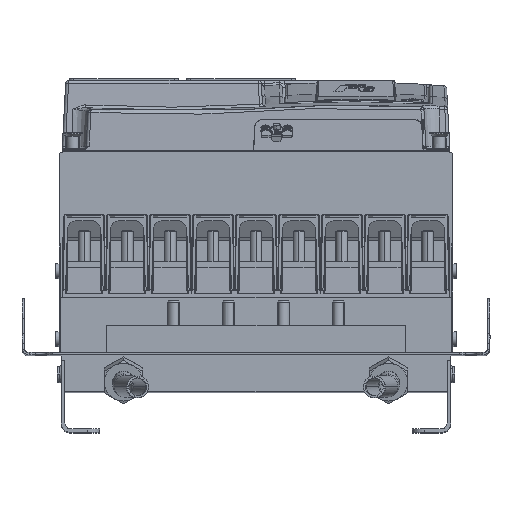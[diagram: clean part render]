
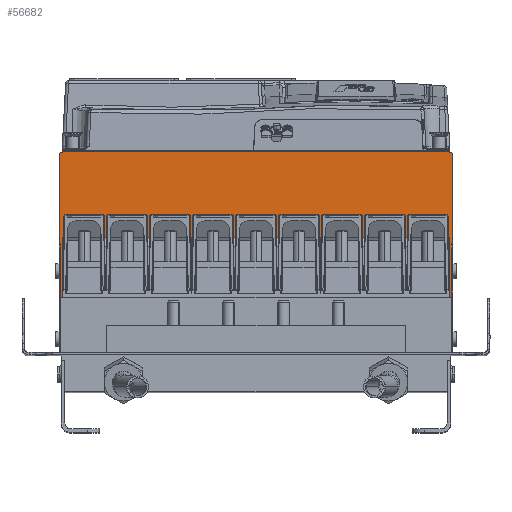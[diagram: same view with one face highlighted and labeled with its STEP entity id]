
A CAD part, top view. The second image highlights one B-rep face of the part: STEP entity #56682.
In plain terms, the highlighted planar face has unit normal (0, 0, 1).
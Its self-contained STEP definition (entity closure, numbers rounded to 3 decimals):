
#37 = VERTEX_POINT ( 'NONE', #41005 ) ;
#3820 = DIRECTION ( 'NONE',  ( 0., 1., 0. ) ) ;
#10092 = CARTESIAN_POINT ( 'NONE',  ( 0., 0., 453. ) ) ;
#10123 = DIRECTION ( 'NONE',  ( 1., 0., 0. ) ) ;
#10351 = ORIENTED_EDGE ( 'NONE', *, *, #94804, .F. ) ;
#10664 = LINE ( 'NONE', #67856, #22197 ) ;
#12765 = EDGE_CURVE ( 'NONE', #101513, #48969, #42381, .T. ) ;
#13591 = ORIENTED_EDGE ( 'NONE', *, *, #12765, .T. ) ;
#14924 = VECTOR ( 'NONE', #102651, 1000. ) ;
#16116 = CARTESIAN_POINT ( 'NONE',  ( 0., 0., 453. ) ) ;
#18628 = DIRECTION ( 'NONE',  ( 1., 0., 0. ) ) ;
#20397 = EDGE_CURVE ( 'NONE', #43883, #37, #91831, .T. ) ;
#21061 = DIRECTION ( 'NONE',  ( 0., 0., -1. ) ) ;
#21235 = AXIS2_PLACEMENT_3D ( 'NONE', #93736, #21061, #103290 ) ;
#22197 = VECTOR ( 'NONE', #10123, 1000. ) ;
#23571 = VECTOR ( 'NONE', #88842, 1000. ) ;
#27372 = LINE ( 'NONE', #67984, #102886 ) ;
#28244 = EDGE_CURVE ( 'NONE', #45555, #90767, #36100, .T. ) ;
#28368 = EDGE_CURVE ( 'NONE', #88324, #65263, #67344, .T. ) ;
#29751 = CARTESIAN_POINT ( 'NONE',  ( 165., -3.5, 453. ) ) ;
#36100 = LINE ( 'NONE', #68681, #23571 ) ;
#36119 = CARTESIAN_POINT ( 'NONE',  ( -165., -3.5, 453. ) ) ;
#37268 = VECTOR ( 'NONE', #43310, 1000. ) ;
#37747 = VERTEX_POINT ( 'NONE', #44061 ) ;
#39594 = EDGE_CURVE ( 'NONE', #48969, #47862, #10664, .T. ) ;
#40757 = DIRECTION ( 'NONE',  ( 0., 0., -1. ) ) ;
#41005 = CARTESIAN_POINT ( 'NONE',  ( 161.5, 0., 453. ) ) ;
#41731 = AXIS2_PLACEMENT_3D ( 'NONE', #69645, #70167, #102676 ) ;
#42381 = LINE ( 'NONE', #51962, #77901 ) ;
#42651 = EDGE_CURVE ( 'NONE', #101513, #43883, #70772, .T. ) ;
#43310 = DIRECTION ( 'NONE',  ( 0., 1., 0. ) ) ;
#43469 = CIRCLE ( 'NONE', #41731, 3.5 ) ;
#43883 = VERTEX_POINT ( 'NONE', #100104 ) ;
#44061 = CARTESIAN_POINT ( 'NONE',  ( -163.5, -167.9, 453. ) ) ;
#44549 = ORIENTED_EDGE ( 'NONE', *, *, #70369, .F. ) ;
#44881 = ORIENTED_EDGE ( 'NONE', *, *, #28244, .F. ) ;
#45033 = LINE ( 'NONE', #62639, #14924 ) ;
#45555 = VERTEX_POINT ( 'NONE', #70119 ) ;
#47016 = ORIENTED_EDGE ( 'NONE', *, *, #20397, .F. ) ;
#47862 = VERTEX_POINT ( 'NONE', #86074 ) ;
#48969 = VERTEX_POINT ( 'NONE', #56398 ) ;
#49448 = CARTESIAN_POINT ( 'NONE',  ( 163.5, -167.9, 453. ) ) ;
#49583 = ORIENTED_EDGE ( 'NONE', *, *, #102059, .F. ) ;
#51962 = CARTESIAN_POINT ( 'NONE',  ( -165., -3.5, 453. ) ) ;
#53799 = ORIENTED_EDGE ( 'NONE', *, *, #28368, .T. ) ;
#56398 = CARTESIAN_POINT ( 'NONE',  ( -165., -77., 453. ) ) ;
#56682 = ADVANCED_FACE ( 'NONE', ( #105330 ), #96775, .F. ) ;
#61045 = CARTESIAN_POINT ( 'NONE',  ( 165., -77., 453. ) ) ;
#62639 = CARTESIAN_POINT ( 'NONE',  ( 0., -167.9, 453. ) ) ;
#62805 = EDGE_CURVE ( 'NONE', #37747, #47862, #27372, .T. ) ;
#64199 = AXIS2_PLACEMENT_3D ( 'NONE', #16116, #40757, #64256 ) ;
#64256 = DIRECTION ( 'NONE',  ( 0., 1., 0. ) ) ;
#65263 = VERTEX_POINT ( 'NONE', #29751 ) ;
#67344 = LINE ( 'NONE', #92407, #37268 ) ;
#67856 = CARTESIAN_POINT ( 'NONE',  ( -165.001, -77., 453. ) ) ;
#67984 = CARTESIAN_POINT ( 'NONE',  ( -163.5, 0., 453. ) ) ;
#68296 = DIRECTION ( 'NONE',  ( -1., 0., 0. ) ) ;
#68681 = CARTESIAN_POINT ( 'NONE',  ( 163.5, 0., 453. ) ) ;
#68827 = LINE ( 'NONE', #102363, #72265 ) ;
#68958 = VECTOR ( 'NONE', #18628, 1000. ) ;
#69645 = CARTESIAN_POINT ( 'NONE',  ( 161.5, -3.5, 453. ) ) ;
#70119 = CARTESIAN_POINT ( 'NONE',  ( 163.5, -77., 453. ) ) ;
#70167 = DIRECTION ( 'NONE',  ( 0., 0., -1. ) ) ;
#70369 = EDGE_CURVE ( 'NONE', #88324, #45555, #68827, .T. ) ;
#70655 = ORIENTED_EDGE ( 'NONE', *, *, #62805, .F. ) ;
#70705 = ORIENTED_EDGE ( 'NONE', *, *, #39594, .T. ) ;
#70772 = CIRCLE ( 'NONE', #21235, 3.5 ) ;
#72265 = VECTOR ( 'NONE', #68296, 1000. ) ;
#77901 = VECTOR ( 'NONE', #91998, 1000. ) ;
#82645 = ORIENTED_EDGE ( 'NONE', *, *, #42651, .F. ) ;
#86074 = CARTESIAN_POINT ( 'NONE',  ( -163.5, -77., 453. ) ) ;
#88324 = VERTEX_POINT ( 'NONE', #61045 ) ;
#88842 = DIRECTION ( 'NONE',  ( 0., -1., 0. ) ) ;
#90767 = VERTEX_POINT ( 'NONE', #49448 ) ;
#91831 = LINE ( 'NONE', #10092, #68958 ) ;
#91998 = DIRECTION ( 'NONE',  ( 0., -1., 0. ) ) ;
#92407 = CARTESIAN_POINT ( 'NONE',  ( 165., -3.5, 453. ) ) ;
#93736 = CARTESIAN_POINT ( 'NONE',  ( -161.5, -3.5, 453. ) ) ;
#94804 = EDGE_CURVE ( 'NONE', #37, #65263, #43469, .T. ) ;
#96775 = PLANE ( 'NONE',  #64199 ) ;
#100104 = CARTESIAN_POINT ( 'NONE',  ( -161.5, 0., 453. ) ) ;
#101391 = EDGE_LOOP ( 'NONE', ( #82645, #13591, #70705, #70655, #49583, #44881, #44549, #53799, #10351, #47016 ) ) ;
#101513 = VERTEX_POINT ( 'NONE', #36119 ) ;
#102059 = EDGE_CURVE ( 'NONE', #90767, #37747, #45033, .T. ) ;
#102363 = CARTESIAN_POINT ( 'NONE',  ( 165.001, -77., 453. ) ) ;
#102651 = DIRECTION ( 'NONE',  ( -1., 0., 0. ) ) ;
#102676 = DIRECTION ( 'NONE',  ( 0., 1., 0. ) ) ;
#102886 = VECTOR ( 'NONE', #3820, 1000. ) ;
#103290 = DIRECTION ( 'NONE',  ( 0., 1., 0. ) ) ;
#105330 = FACE_OUTER_BOUND ( 'NONE', #101391, .T. ) ;
